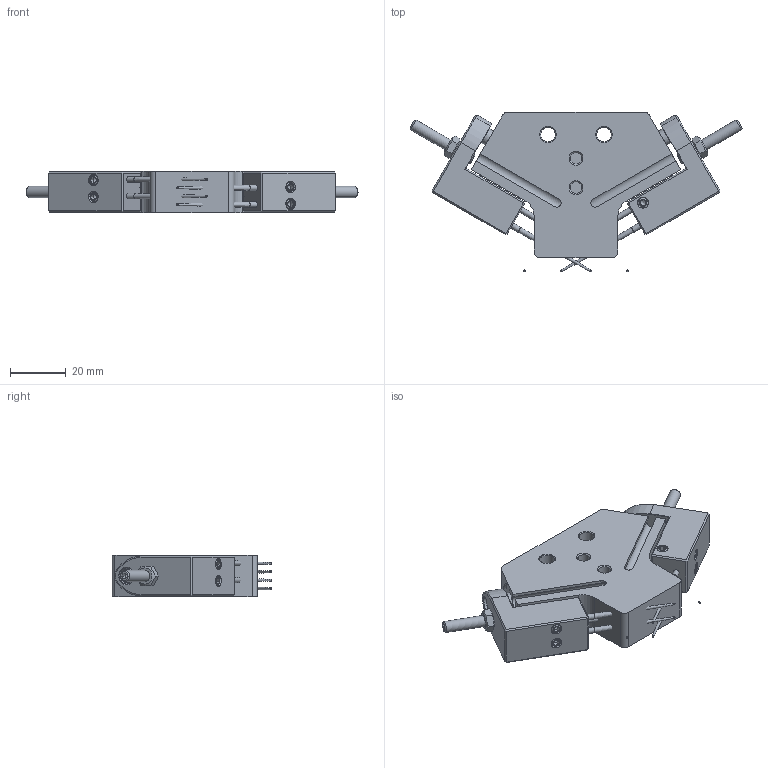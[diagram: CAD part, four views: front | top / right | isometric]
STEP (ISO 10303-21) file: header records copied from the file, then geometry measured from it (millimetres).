
FILE_DESCRIPTION(/* description */ ('NHL-5'),/* implementation_level */ '2;1');
FILE_NAME(/* name */ 'NHL-5.stp',/* time_stamp */ '2026-09-05T12:29:38+02:00',/* author */ ('Jensen'),/* organization */ (''),/* preprocessor_version */ 'ST-DEVELOPER v20.1',/* originating_system */ 'Autodesk Inventor 2026',/* authorisation */ '');
FILE_SCHEMA (('AUTOMOTIVE_DESIGN { 1 0 10303 214 3 1 1 }'));
Length unit declared in the file: millimetre
Products named in the file (4): NHL-5; NHL-5_base_body; NHL-5_piston_rod; NHL-5_needle_holder
Assembly tree (5 placements, depth 2):
  NHL-5
    NHL-5_base_body
    NHL-5_piston_rod  x2
    NHL-5_needle_holder  x2
Bounding box: 118.66 x 57.07 x 15 mm (x, y, z)
Volume: 50406.2 mm3; surface area: 19819.2 mm2
Topology: 5 solids, 5 shells, 308 faces, 722 edges, 455 vertices
Faces by surface type: plane 178, cylinder 60, cone 60, bspline 6, torus 4
Full cylindrical faces by diameter (mm): 2 x6, 2.459 x2, 3 x2, 3.3 x2, 4 x4, 4.134 x3, 4.2 x1, 5.3 x2, 5.5 x2, 5.8 x2, 6 x4, 9.8 x2, 10 x2, 13 x4, 13.6 x2
Entity records: 5785 total; most frequent: CARTESIAN_POINT 1189, DIRECTION 903, ORIENTED_EDGE 854, EDGE_CURVE 427, AXIS2_PLACEMENT_3D 333, VERTEX_POINT 275, LINE 237, VECTOR 237
